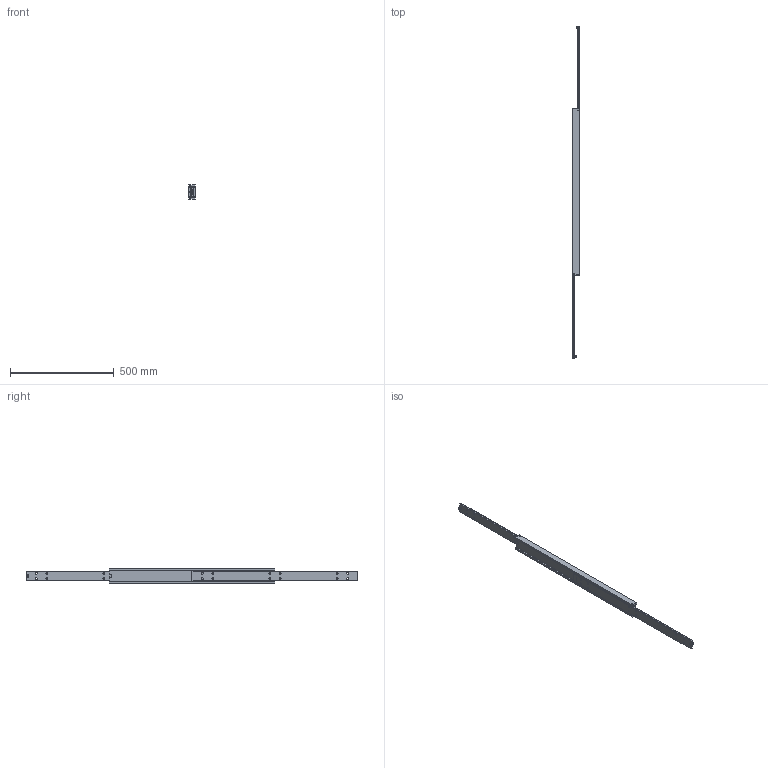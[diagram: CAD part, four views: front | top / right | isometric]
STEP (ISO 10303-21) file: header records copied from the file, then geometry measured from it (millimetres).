
FILE_DESCRIPTION(/* description */ (''),/* implementation_level */ '2;1');
FILE_NAME(/* name */ 'C:\Users\Miluxor\Desktop\Miluxor Schienen\Original Zeichnungen\Zeichnungen Schienen Komplett\MX-DTP70\MX-DTP70.080\MX-DTP70.080 ausgefahren.stp',/* time_stamp */ '2019-01-24T12:15:07+01:00',/* author */ ('Miluxor'),/* organization */ (''),/* preprocessor_version */ 'ST-DEVELOPER v16.13',/* originating_system */ 'AutoCAD Mechanical',/* authorisation */ '');
FILE_SCHEMA (('AUTOMOTIVE_DESIGN { 1 0 10303 214 3 1 1 }'));
Length unit declared in the file: millimetre
Products named in the file (1): Product
Bounding box: 32 x 1600 x 70 mm (x, y, z)
Volume: 1366802.6 mm3; surface area: 509535.7 mm2
Topology: 63 solids, 89 shells, 456 faces, 1370 edges, 940 vertices
Faces by surface type: plane 318, sphere 52, cylinder 44, bspline 20, torus 18, cone 4
Full cylindrical faces by diameter (mm): 6 x2, 8 x24, 13 x2
Entity records: 33251 total; most frequent: CARTESIAN_POINT 21621, DIRECTION 2290, ORIENTED_EDGE 1876, EDGE_CURVE 1198, VERTEX_POINT 922, LINE 872, VECTOR 872, AXIS2_PLACEMENT_3D 709
